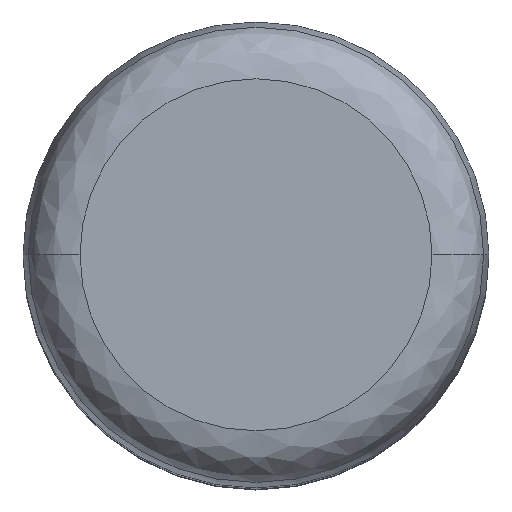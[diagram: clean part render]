
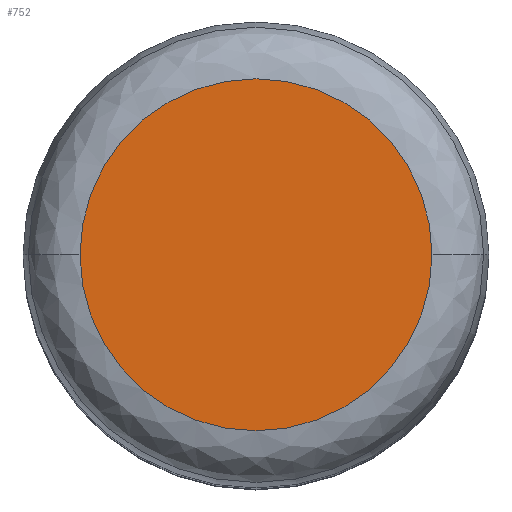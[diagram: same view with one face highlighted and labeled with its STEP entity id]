
A CAD part, top view. The second image highlights one B-rep face of the part: STEP entity #752.
In plain terms, the highlighted planar face has unit normal (0, 0, 1).
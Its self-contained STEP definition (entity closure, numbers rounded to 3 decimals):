
#145=VERTEX_POINT(' ',#146);
#146=CARTESIAN_POINT('',(-15.109,0.,120.));
#147=VERTEX_POINT(' ',#148);
#148=CARTESIAN_POINT('',(15.109,0.,120.));
#419=CIRCLE('',#420,15.109);
#420=AXIS2_PLACEMENT_3D('',#421,#422,#423);
#421=CARTESIAN_POINT('',(0.,0.,120.));
#422=DIRECTION('',(0.,0.,1.));
#423=DIRECTION('',(0.,1.,0.));
#424=EDGE_CURVE(' ',#147,#145,#419,.F.);
#425=CIRCLE('',#426,15.109);
#426=AXIS2_PLACEMENT_3D('',#427,#428,#429);
#427=CARTESIAN_POINT('',(0.,0.,120.));
#428=DIRECTION('',(0.,0.,1.));
#429=DIRECTION('',(0.,-1.,0.));
#430=EDGE_CURVE(' ',#145,#147,#425,.F.);
#743=ORIENTED_EDGE('',*,*,#424,.F.);
#744=ORIENTED_EDGE('',*,*,#430,.F.);
#745=EDGE_LOOP('',(#743,#744));
#746=FACE_OUTER_BOUND('',#745,.T.);
#747=PLANE('',#748);
#748=AXIS2_PLACEMENT_3D('',#749,#750,#751);
#749=CARTESIAN_POINT('',(0.,0.,120.));
#750=DIRECTION('',(0.,0.,1.));
#751=DIRECTION('',(0.,-1.,0.));
#752=ADVANCED_FACE('',(#746),#747,.T.);
